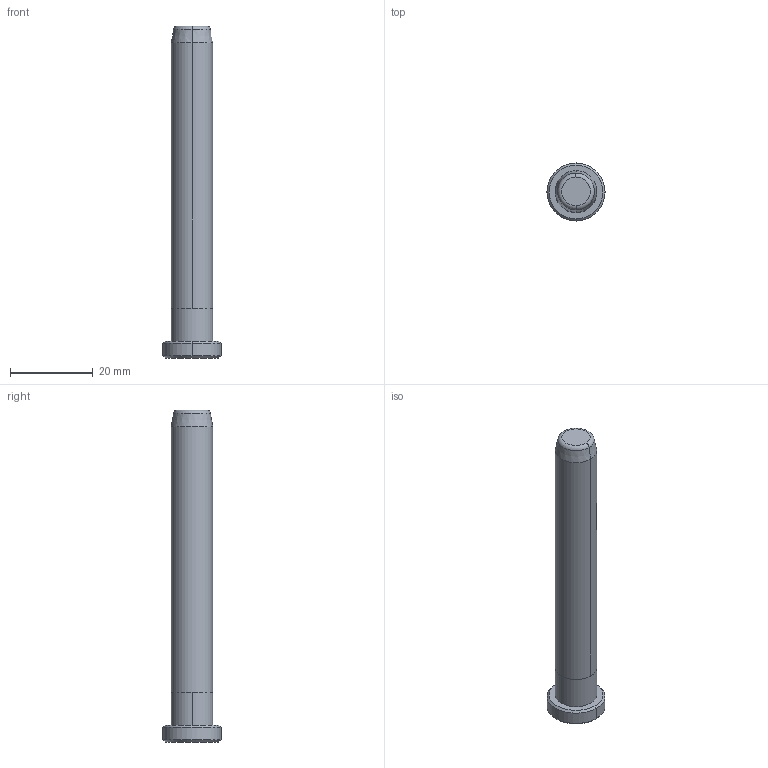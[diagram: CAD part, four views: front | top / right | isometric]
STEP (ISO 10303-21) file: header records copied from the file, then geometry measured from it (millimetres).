
FILE_DESCRIPTION((''),'2;1');
FILE_NAME('B80810080','2018-01-06T',('MANU'),(''),'PRO/ENGINEER BY PARAMETRIC TECHNOLOGY CORPORATION, 2012130','PRO/ENGINEER BY PARAMETRIC TECHNOLOGY CORPORATION, 2012130','');
FILE_SCHEMA(('CONFIG_CONTROL_DESIGN'));
Length unit declared in the file: millimetre
Products named in the file (1): B80810080
Bounding box: 14 x 14 x 80 mm (x, y, z)
Volume: 6530.7 mm3; surface area: 2809.9 mm2
Topology: 1 solids, 1 shells, 18 faces, 34 edges, 20 vertices
Faces by surface type: cone 6, cylinder 6, plane 4, torus 2
Entity records: 494 total; most frequent: DIRECTION 92, CARTESIAN_POINT 72, ORIENTED_EDGE 68, AXIS2_PLACEMENT_3D 40, EDGE_CURVE 34, CIRCLE 22, VERTEX_POINT 20, EDGE_LOOP 20
